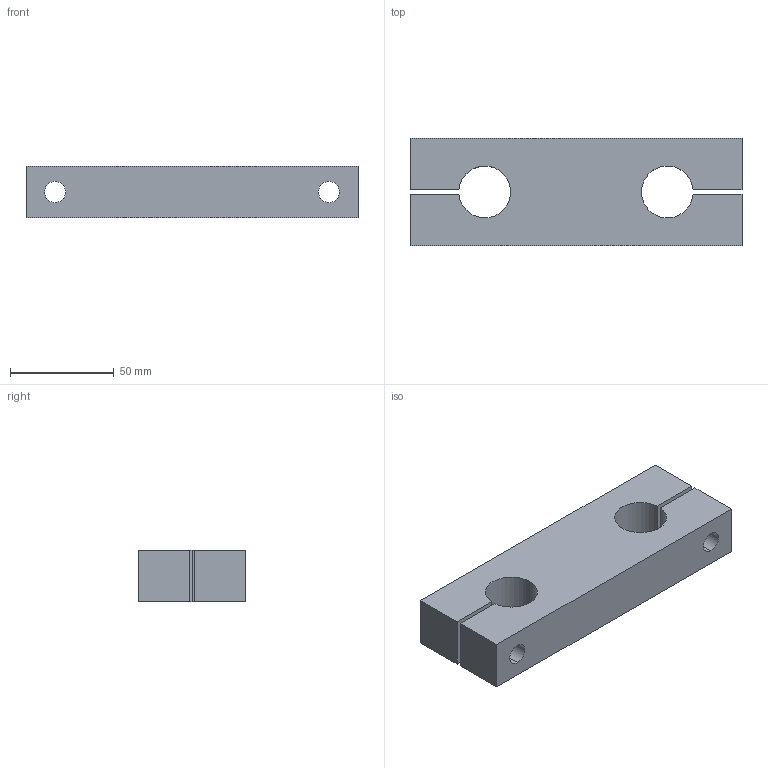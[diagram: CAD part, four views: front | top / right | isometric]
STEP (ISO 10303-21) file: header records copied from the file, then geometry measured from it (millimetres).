
FILE_DESCRIPTION (( 'STEP AP214' ), '1' );
FILE_NAME ('KTB-25.step', '2020-03-04T13:38:39', ( '' ), ( '' ), 'SwSTEP 2.0', 'SolidWorks 2019', '' );
FILE_SCHEMA (( 'AUTOMOTIVE_DESIGN' ));
Length unit declared in the file: millimetre
Products named in the file (1): KTB-25
Bounding box: 160 x 52 x 25 mm (x, y, z)
Volume: 164116.3 mm3; surface area: 34643.7 mm2
Topology: 1 solids, 1 shells, 41 faces, 101 edges, 65 vertices
Faces by surface type: cylinder 21, plane 16, cone 4
Entity records: 1307 total; most frequent: DIRECTION 227, CARTESIAN_POINT 206, ORIENTED_EDGE 198, EDGE_CURVE 99, AXIS2_PLACEMENT_3D 86, VERTEX_POINT 65, LINE 55, VECTOR 55
